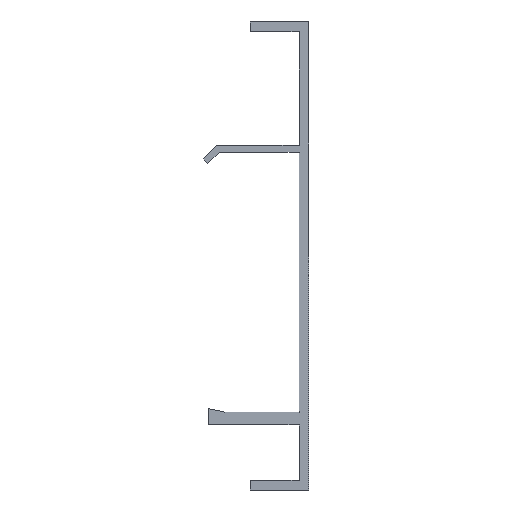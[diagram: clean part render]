
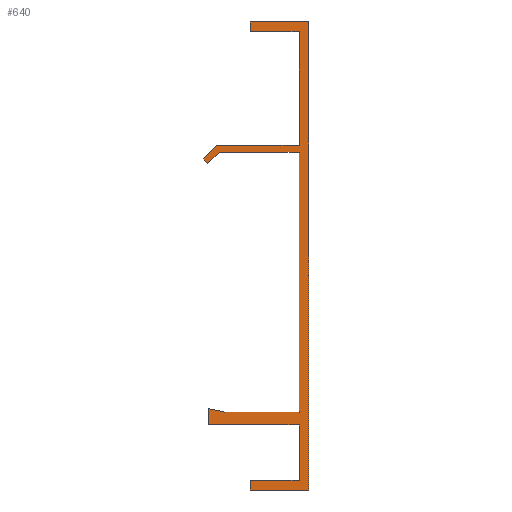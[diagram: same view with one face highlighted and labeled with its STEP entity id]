
A CAD part, left-side view. The second image highlights one B-rep face of the part: STEP entity #640.
In plain terms, the highlighted planar face has unit normal (-1, 0, 0).
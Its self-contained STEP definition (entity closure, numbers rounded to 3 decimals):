
#640=ADVANCED_FACE('',(#1136),#1137,.T.);
#1136=FACE_OUTER_BOUND('',#1768,.T.);
#1137=PLANE('',#1769);
#1768=EDGE_LOOP('',(#2458,#2459,#2460,#2461,#2462,#2463,#2464,#2465,#2466,#2467,#2468,#2469,#2470,#2471,#2472,#2473,#2474,#2475,#2476,#2477,#2478,#2479,#2480));
#1769=AXIS2_PLACEMENT_3D('',#2481,#2482,#2483);
#2458=ORIENTED_EDGE('',*,*,#3002,.T.);
#2459=ORIENTED_EDGE('',*,*,#2998,.T.);
#2460=ORIENTED_EDGE('',*,*,#2994,.T.);
#2461=ORIENTED_EDGE('',*,*,#2990,.T.);
#2462=ORIENTED_EDGE('',*,*,#2986,.T.);
#2463=ORIENTED_EDGE('',*,*,#2982,.T.);
#2464=ORIENTED_EDGE('',*,*,#2978,.T.);
#2465=ORIENTED_EDGE('',*,*,#2974,.T.);
#2466=ORIENTED_EDGE('',*,*,#2970,.T.);
#2467=ORIENTED_EDGE('',*,*,#2834,.T.);
#2468=ORIENTED_EDGE('',*,*,#2904,.T.);
#2469=ORIENTED_EDGE('',*,*,#2909,.F.);
#2470=ORIENTED_EDGE('',*,*,#2898,.F.);
#2471=ORIENTED_EDGE('',*,*,#2929,.T.);
#2472=ORIENTED_EDGE('',*,*,#2966,.T.);
#2473=ORIENTED_EDGE('',*,*,#2962,.T.);
#2474=ORIENTED_EDGE('',*,*,#2958,.T.);
#2475=ORIENTED_EDGE('',*,*,#2954,.T.);
#2476=ORIENTED_EDGE('',*,*,#2950,.T.);
#2477=ORIENTED_EDGE('',*,*,#2946,.T.);
#2478=ORIENTED_EDGE('',*,*,#2942,.T.);
#2479=ORIENTED_EDGE('',*,*,#2938,.T.);
#2480=ORIENTED_EDGE('',*,*,#2934,.T.);
#2481=CARTESIAN_POINT('',(0.0,3.619,-36.921));
#2482=DIRECTION('',(-1.0,0.,0.));
#2483=DIRECTION('',(0.,0.,-1.0));
#2834=EDGE_CURVE('',#3285,#3283,#3286,.T.);
#2898=EDGE_CURVE('',#3377,#3380,#3381,.T.);
#2904=EDGE_CURVE('',#3283,#3388,#3390,.T.);
#2909=EDGE_CURVE('',#3380,#3388,#3397,.T.);
#2929=EDGE_CURVE('',#3377,#3420,#3422,.T.);
#2934=EDGE_CURVE('',#3430,#3428,#3431,.T.);
#2938=EDGE_CURVE('',#3436,#3430,#3437,.T.);
#2942=EDGE_CURVE('',#3442,#3436,#3443,.T.);
#2946=EDGE_CURVE('',#3448,#3442,#3449,.T.);
#2950=EDGE_CURVE('',#3454,#3448,#3455,.T.);
#2954=EDGE_CURVE('',#3460,#3454,#3461,.T.);
#2958=EDGE_CURVE('',#3466,#3460,#3467,.T.);
#2962=EDGE_CURVE('',#3472,#3466,#3473,.T.);
#2966=EDGE_CURVE('',#3420,#3472,#3477,.T.);
#2970=EDGE_CURVE('',#3482,#3285,#3483,.T.);
#2974=EDGE_CURVE('',#3488,#3482,#3489,.T.);
#2978=EDGE_CURVE('',#3494,#3488,#3495,.T.);
#2982=EDGE_CURVE('',#3500,#3494,#3501,.T.);
#2986=EDGE_CURVE('',#3506,#3500,#3507,.T.);
#2990=EDGE_CURVE('',#3512,#3506,#3513,.T.);
#2994=EDGE_CURVE('',#3518,#3512,#3519,.T.);
#2998=EDGE_CURVE('',#3524,#3518,#3525,.T.);
#3002=EDGE_CURVE('',#3428,#3524,#3529,.T.);
#3283=VERTEX_POINT('',#3659);
#3285=VERTEX_POINT('',#3661);
#3286=LINE('',#3662,#3663);
#3377=VERTEX_POINT('',#3782);
#3380=VERTEX_POINT('',#3785);
#3381=LINE('',#3786,#3787);
#3388=VERTEX_POINT('',#3796);
#3390=LINE('',#3798,#3799);
#3397=LINE('',#3807,#3808);
#3420=VERTEX_POINT('',#3838);
#3422=LINE('',#3841,#3842);
#3428=VERTEX_POINT('',#3849);
#3430=VERTEX_POINT('',#3852);
#3431=LINE('',#3853,#3854);
#3436=VERTEX_POINT('',#3861);
#3437=LINE('',#3862,#3863);
#3442=VERTEX_POINT('',#3870);
#3443=LINE('',#3871,#3872);
#3448=VERTEX_POINT('',#3879);
#3449=LINE('',#3880,#3881);
#3454=VERTEX_POINT('',#3888);
#3455=LINE('',#3889,#3890);
#3460=VERTEX_POINT('',#3897);
#3461=LINE('',#3898,#3899);
#3466=VERTEX_POINT('',#3906);
#3467=LINE('',#3907,#3908);
#3472=VERTEX_POINT('',#3915);
#3473=LINE('',#3916,#3917);
#3477=LINE('',#3923,#3924);
#3482=VERTEX_POINT('',#3930);
#3483=LINE('',#3931,#3932);
#3488=VERTEX_POINT('',#3939);
#3489=LINE('',#3940,#3941);
#3494=VERTEX_POINT('',#3948);
#3495=LINE('',#3949,#3950);
#3500=VERTEX_POINT('',#3957);
#3501=LINE('',#3958,#3959);
#3506=VERTEX_POINT('',#3966);
#3507=LINE('',#3967,#3968);
#3512=VERTEX_POINT('',#3975);
#3513=LINE('',#3976,#3977);
#3518=VERTEX_POINT('',#3984);
#3519=LINE('',#3985,#3986);
#3524=VERTEX_POINT('',#3993);
#3525=LINE('',#3994,#3995);
#3529=LINE('',#4001,#4002);
#3659=CARTESIAN_POINT('',(0.0,1.5,-59.995));
#3661=CARTESIAN_POINT('',(0.0,1.5,-20.0));
#3662=CARTESIAN_POINT('',(0.0,1.5,-20.0));
#3663=VECTOR('',#4082,1.0);
#3782=CARTESIAN_POINT('',(0.0,1.5,-59.997));
#3785=CARTESIAN_POINT('',(0.0,1.505,-59.997));
#3786=CARTESIAN_POINT('',(0.0,1.5,-59.997));
#3787=VECTOR('',#4162,1.0);
#3796=CARTESIAN_POINT('',(0.0,1.505,-59.995));
#3798=CARTESIAN_POINT('',(0.0,1.5,-59.995));
#3799=VECTOR('',#4171,1.0);
#3807=CARTESIAN_POINT('',(0.0,1.505,-59.997));
#3808=VECTOR('',#4179,1.0);
#3838=CARTESIAN_POINT('',(0.0,1.5,-60.0));
#3841=CARTESIAN_POINT('',(0.0,1.5,-20.0));
#3842=VECTOR('',#4200,1.0);
#3849=CARTESIAN_POINT('',(0.0,0.,0.0));
#3852=CARTESIAN_POINT('',(0.0,0.,-72.0));
#3853=CARTESIAN_POINT('',(0.0,0.,-72.0));
#3854=VECTOR('',#4203,1.0);
#3861=CARTESIAN_POINT('',(0.0,9.,-72.0));
#3862=CARTESIAN_POINT('',(0.0,9.,-72.0));
#3863=VECTOR('',#4206,1.0);
#3870=CARTESIAN_POINT('',(0.0,9.,-70.5));
#3871=CARTESIAN_POINT('',(0.0,9.,-70.5));
#3872=VECTOR('',#4209,1.0);
#3879=CARTESIAN_POINT('',(0.0,1.5,-70.5));
#3880=CARTESIAN_POINT('',(0.0,1.5,-70.5));
#3881=VECTOR('',#4212,1.0);
#3888=CARTESIAN_POINT('',(0.0,1.5,-62.0));
#3889=CARTESIAN_POINT('',(0.0,1.5,-62.0));
#3890=VECTOR('',#4215,1.0);
#3897=CARTESIAN_POINT('',(0.0,15.5,-62.0));
#3898=CARTESIAN_POINT('',(0.0,15.5,-62.0));
#3899=VECTOR('',#4218,1.0);
#3906=CARTESIAN_POINT('',(0.0,15.5,-59.5));
#3907=CARTESIAN_POINT('',(0.0,15.5,-59.5));
#3908=VECTOR('',#4221,1.0);
#3915=CARTESIAN_POINT('',(0.0,13.,-60.0));
#3916=CARTESIAN_POINT('',(0.0,13.,-60.0));
#3917=VECTOR('',#4224,1.0);
#3923=CARTESIAN_POINT('',(0.0,1.5,-60.0));
#3924=VECTOR('',#4227,1.0);
#3930=CARTESIAN_POINT('',(0.0,13.793,-20.0));
#3931=CARTESIAN_POINT('',(0.0,13.793,-20.0));
#3932=VECTOR('',#4229,1.0);
#3939=CARTESIAN_POINT('',(0.0,15.561,-21.768));
#3940=CARTESIAN_POINT('',(0.0,15.561,-21.768));
#3941=VECTOR('',#4232,1.0);
#3948=CARTESIAN_POINT('',(0.0,16.268,-21.061));
#3949=CARTESIAN_POINT('',(0.0,16.268,-21.061));
#3950=VECTOR('',#4235,1.);
#3957=CARTESIAN_POINT('',(0.0,14.207,-19.0));
#3958=CARTESIAN_POINT('',(0.0,14.207,-19.0));
#3959=VECTOR('',#4238,1.);
#3966=CARTESIAN_POINT('',(0.0,1.5,-19.0));
#3967=CARTESIAN_POINT('',(0.0,1.5,-19.0));
#3968=VECTOR('',#4241,1.0);
#3975=CARTESIAN_POINT('',(0.0,1.5,-1.5));
#3976=CARTESIAN_POINT('',(0.0,1.5,-1.5));
#3977=VECTOR('',#4244,1.0);
#3984=CARTESIAN_POINT('',(0.0,9.,-1.5));
#3985=CARTESIAN_POINT('',(0.0,9.,-1.5));
#3986=VECTOR('',#4247,1.0);
#3993=CARTESIAN_POINT('',(0.0,9.,0.0));
#3994=CARTESIAN_POINT('',(0.0,9.,0.0));
#3995=VECTOR('',#4250,1.0);
#4001=CARTESIAN_POINT('',(0.0,0.,0.0));
#4002=VECTOR('',#4253,1.0);
#4082=DIRECTION('',(0.,0.0,-1.0));
#4162=DIRECTION('',(0.,1.0,0.));
#4171=DIRECTION('',(0.,1.0,0.));
#4179=DIRECTION('',(0.,0.,1.0));
#4200=DIRECTION('',(0.,0.0,-1.0));
#4203=DIRECTION('',(0.,0.0,1.0));
#4206=DIRECTION('',(0.,-1.0,0.0));
#4209=DIRECTION('',(0.,0.0,-1.0));
#4212=DIRECTION('',(0.,1.0,0.0));
#4215=DIRECTION('',(0.,0.0,-1.0));
#4218=DIRECTION('',(0.,-1.0,0.0));
#4221=DIRECTION('',(0.,0.0,-1.0));
#4224=DIRECTION('',(0.,0.981,0.196));
#4227=DIRECTION('',(0.,1.0,0.0));
#4229=DIRECTION('',(0.,-1.0,0.0));
#4232=DIRECTION('',(0.,-0.707,0.707));
#4235=DIRECTION('',(0.,-0.707,-0.707));
#4238=DIRECTION('',(0.,0.707,-0.707));
#4241=DIRECTION('',(0.,1.0,0.0));
#4244=DIRECTION('',(0.,0.0,-1.0));
#4247=DIRECTION('',(0.,-1.0,0.0));
#4250=DIRECTION('',(0.,0.0,-1.0));
#4253=DIRECTION('',(0.,1.0,0.0));
